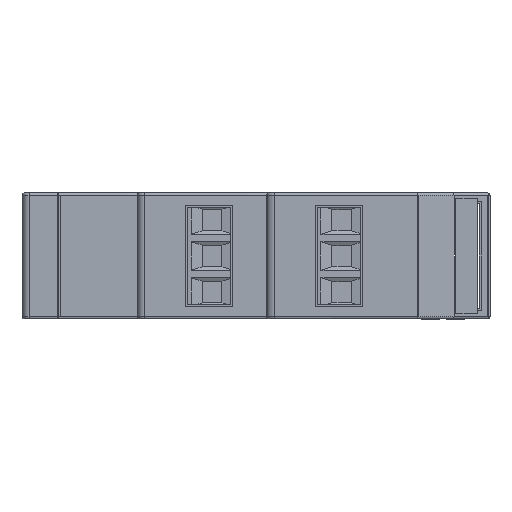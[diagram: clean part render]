
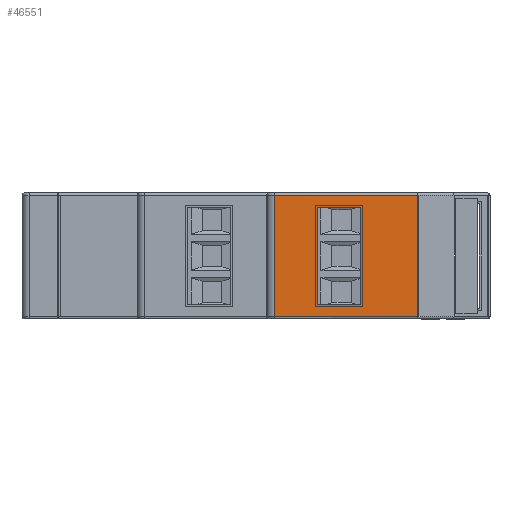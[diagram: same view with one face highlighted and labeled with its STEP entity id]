
A CAD part, left-side view. The second image highlights one B-rep face of the part: STEP entity #46551.
In plain terms, the highlighted planar face has unit normal (-1, 0, 0).
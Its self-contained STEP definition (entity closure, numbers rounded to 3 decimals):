
#406 = CARTESIAN_POINT ( 'NONE',  ( 0., 24., 15.5 ) ) ;
#427 = LINE ( 'NONE', #406, #19904 ) ;
#429 = DIRECTION ( 'NONE',  ( 0., 0., -1. ) ) ;
#7595 = VECTOR ( 'NONE', #22661, 1000. ) ;
#7829 = VECTOR ( 'NONE', #22671, 1000. ) ;
#7832 = VECTOR ( 'NONE', #22658, 1000. ) ;
#7833 = VECTOR ( 'NONE', #22667, 1000. ) ;
#7834 = VECTOR ( 'NONE', #22653, 1000. ) ;
#7842 = VECTOR ( 'NONE', #22655, 1000. ) ;
#8073 = VECTOR ( 'NONE', #26307, 1000. ) ;
#14213 = CARTESIAN_POINT ( 'NONE',  ( 0., 18., 2. ) ) ;
#14287 = CARTESIAN_POINT ( 'NONE',  ( 0., 30., 17.2 ) ) ;
#14306 = CARTESIAN_POINT ( 'NONE',  ( 0., 30., 0.3 ) ) ;
#14475 = CARTESIAN_POINT ( 'NONE',  ( 0., 10., 17.2 ) ) ;
#14600 = CARTESIAN_POINT ( 'NONE',  ( 0., 24., 2. ) ) ;
#14629 = CARTESIAN_POINT ( 'NONE',  ( 0., 18., 15.5 ) ) ;
#19904 = VECTOR ( 'NONE', #429, 1000. ) ;
#22639 = LINE ( 'NONE', #22654, #7842 ) ;
#22650 = LINE ( 'NONE', #22652, #7834 ) ;
#22651 = CARTESIAN_POINT ( 'NONE',  ( 0., 18., 15.5 ) ) ;
#22652 = CARTESIAN_POINT ( 'NONE',  ( 0., 0., 17.2 ) ) ;
#22653 = DIRECTION ( 'NONE',  ( 0., 1., 0. ) ) ;
#22654 = CARTESIAN_POINT ( 'NONE',  ( 0., 10., -11.18 ) ) ;
#22655 = DIRECTION ( 'NONE',  ( 0., 0., 1. ) ) ;
#22656 = LINE ( 'NONE', #22657, #7832 ) ;
#22657 = CARTESIAN_POINT ( 'NONE',  ( 0., 10., 0.3 ) ) ;
#22658 = DIRECTION ( 'NONE',  ( 0., -1., 0. ) ) ;
#22659 = LINE ( 'NONE', #22660, #7595 ) ;
#22660 = CARTESIAN_POINT ( 'NONE',  ( 0., 30., 17.5 ) ) ;
#22661 = DIRECTION ( 'NONE',  ( 0., 0., -1. ) ) ;
#22663 = LINE ( 'NONE', #22651, #7833 ) ;
#22667 = DIRECTION ( 'NONE',  ( 0., 0., 1. ) ) ;
#22668 = LINE ( 'NONE', #22670, #7829 ) ;
#22670 = CARTESIAN_POINT ( 'NONE',  ( 0., 18., 2. ) ) ;
#22671 = DIRECTION ( 'NONE',  ( 0., -1., 0. ) ) ;
#26270 = LINE ( 'NONE', #26304, #8073 ) ;
#26304 = CARTESIAN_POINT ( 'NONE',  ( 0., 18., 15.5 ) ) ;
#26307 = DIRECTION ( 'NONE',  ( 0., 1., 0. ) ) ;
#26953 = CARTESIAN_POINT ( 'NONE',  ( 0., 24., 15.5 ) ) ;
#27212 = CARTESIAN_POINT ( 'NONE',  ( 0., 10., 0.3 ) ) ;
#29248 = FACE_OUTER_BOUND ( 'NONE', #39048, .T. ) ;
#29282 = FACE_BOUND ( 'NONE', #38681, .T. ) ;
#29286 = PLANE ( 'NONE',  #37623 ) ;
#29309 = CARTESIAN_POINT ( 'NONE',  ( 0., 0., 17.5 ) ) ;
#29311 = DIRECTION ( 'NONE',  ( 1., 0., 0. ) ) ;
#29313 = DIRECTION ( 'NONE',  ( 0., 0., -1. ) ) ;
#30532 = EDGE_CURVE ( 'NONE', #47915, #44063, #26270, .T. ) ;
#30785 = EDGE_CURVE ( 'NONE', #47818, #47699, #22650, .T. ) ;
#30786 = EDGE_CURVE ( 'NONE', #44119, #47818, #22639, .T. ) ;
#30787 = EDGE_CURVE ( 'NONE', #47709, #44119, #22656, .T. ) ;
#30788 = EDGE_CURVE ( 'NONE', #47699, #47709, #22659, .T. ) ;
#30790 = EDGE_CURVE ( 'NONE', #47652, #47915, #22663, .T. ) ;
#30791 = EDGE_CURVE ( 'NONE', #47896, #47652, #22668, .T. ) ;
#37623 = AXIS2_PLACEMENT_3D ( 'NONE', #29309, #29311, #29313 ) ;
#38681 = EDGE_LOOP ( 'NONE', ( #49451, #49452, #49453, #49454 ) ) ;
#39048 = EDGE_LOOP ( 'NONE', ( #49455, #49456, #49457, #49458 ) ) ;
#44063 = VERTEX_POINT ( 'NONE', #26953 ) ;
#44119 = VERTEX_POINT ( 'NONE', #27212 ) ;
#44909 = EDGE_CURVE ( 'NONE', #44063, #47896, #427, .T. ) ;
#46551 = ADVANCED_FACE ( 'NONE', ( #29282, #29248 ), #29286, .F. ) ;
#47652 = VERTEX_POINT ( 'NONE', #14213 ) ;
#47699 = VERTEX_POINT ( 'NONE', #14287 ) ;
#47709 = VERTEX_POINT ( 'NONE', #14306 ) ;
#47818 = VERTEX_POINT ( 'NONE', #14475 ) ;
#47896 = VERTEX_POINT ( 'NONE', #14600 ) ;
#47915 = VERTEX_POINT ( 'NONE', #14629 ) ;
#49451 = ORIENTED_EDGE ( 'NONE', *, *, #44909, .F. ) ;
#49452 = ORIENTED_EDGE ( 'NONE', *, *, #30532, .F. ) ;
#49453 = ORIENTED_EDGE ( 'NONE', *, *, #30790, .F. ) ;
#49454 = ORIENTED_EDGE ( 'NONE', *, *, #30791, .F. ) ;
#49455 = ORIENTED_EDGE ( 'NONE', *, *, #30788, .T. ) ;
#49456 = ORIENTED_EDGE ( 'NONE', *, *, #30787, .T. ) ;
#49457 = ORIENTED_EDGE ( 'NONE', *, *, #30786, .T. ) ;
#49458 = ORIENTED_EDGE ( 'NONE', *, *, #30785, .T. ) ;
